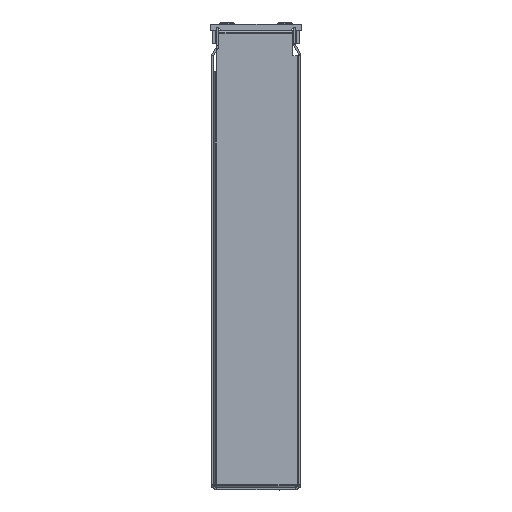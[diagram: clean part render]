
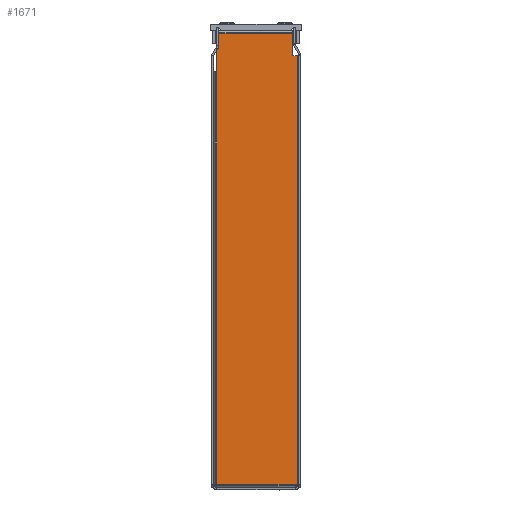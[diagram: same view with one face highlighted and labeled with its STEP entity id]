
A CAD part, left-side view. The second image highlights one B-rep face of the part: STEP entity #1671.
In plain terms, the highlighted free-form (B-spline) face has degree [1, 1] with [2, 2] control points.
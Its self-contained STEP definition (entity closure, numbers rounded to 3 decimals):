
#1671=ADVANCED_FACE('F152',(#4693),#4694,.F.);
#4693=FACE_OUTER_BOUND('',#10847,.T.);
#4694=B_SPLINE_SURFACE_WITH_KNOTS('',1,1,((#10848,#10849),(#10850,#10851)),.UNSPECIFIED.,.F.,.F.,.F.,(2,2),(2,2),(0.001,0.999),(0.001,5.607),.UNSPECIFIED.);
#10847=EDGE_LOOP('',(#29466,#29467,#29468,#29469,#29470,#29471,#29472,#29473,#29474,#29475));
#10848=CARTESIAN_POINT('',(-224.25,37.652,-2.792));
#10849=CARTESIAN_POINT('',(-224.25,37.696,-219.794));
#10850=CARTESIAN_POINT('',(-224.25,-1.,-2.8));
#10851=CARTESIAN_POINT('',(-224.25,-0.956,-219.801));
#29466=ORIENTED_EDGE('',*,*,#34477,.F.);
#29467=ORIENTED_EDGE('',*,*,#34473,.F.);
#29468=ORIENTED_EDGE('',*,*,#34445,.F.);
#29469=ORIENTED_EDGE('',*,*,#34416,.F.);
#29470=ORIENTED_EDGE('',*,*,#34485,.F.);
#29471=ORIENTED_EDGE('',*,*,#34370,.F.);
#29472=ORIENTED_EDGE('',*,*,#34366,.F.);
#29473=ORIENTED_EDGE('',*,*,#34361,.F.);
#29474=ORIENTED_EDGE('',*,*,#34486,.F.);
#29475=ORIENTED_EDGE('',*,*,#34481,.F.);
#34361=EDGE_CURVE('E369',#37141,#37163,#37164,.T.);
#34366=EDGE_CURVE('E304',#37163,#37169,#37170,.T.);
#34370=EDGE_CURVE('E297',#37169,#37175,#37176,.T.);
#34416=EDGE_CURVE('E361',#37239,#37240,#37241,.T.);
#34445=EDGE_CURVE('E366',#37240,#37280,#37282,.T.);
#34473=EDGE_CURVE('E364',#37280,#37318,#37320,.T.);
#34477=EDGE_CURVE('E326',#37318,#37324,#37325,.T.);
#34481=EDGE_CURVE('E319',#37324,#37330,#37331,.T.);
#34485=EDGE_CURVE('E368',#37175,#37239,#37336,.T.);
#34486=EDGE_CURVE('E316',#37330,#37141,#37337,.T.);
#37141=VERTEX_POINT('V195',#41348);
#37163=VERTEX_POINT('V188',#41405);
#37164=B_SPLINE_CURVE_WITH_KNOTS('',1,(#41406,#41407),.UNSPECIFIED.,.F.,.F.,(2,2),(0.0,1.0),.UNSPECIFIED.);
#37169=VERTEX_POINT('V185',#41422);
#37170=B_SPLINE_CURVE_WITH_KNOTS('',1,(#41423,#41424),.UNSPECIFIED.,.F.,.F.,(2,2),(0.0,1.0),.UNSPECIFIED.);
#37175=VERTEX_POINT('V181',#41431);
#37176=B_SPLINE_CURVE_WITH_KNOTS('',1,(#41432,#41433),.UNSPECIFIED.,.F.,.F.,(2,2),(0.0,1.0),.UNSPECIFIED.);
#37239=VERTEX_POINT('V220',#41522);
#37240=VERTEX_POINT('V218',#41523);
#37241=B_SPLINE_CURVE_WITH_KNOTS('',1,(#41524,#41525),.UNSPECIFIED.,.F.,.F.,(2,2),(0.0,0.026),.UNSPECIFIED.);
#37280=VERTEX_POINT('V217',#41607);
#37282=B_SPLINE_CURVE_WITH_KNOTS('',1,(#41618,#41619),.UNSPECIFIED.,.F.,.F.,(2,2),(0.026,1.0),.UNSPECIFIED.);
#37318=VERTEX_POINT('V204',#41690);
#37320=B_SPLINE_CURVE_WITH_KNOTS('',1,(#41701,#41702),.UNSPECIFIED.,.F.,.F.,(2,2),(0.0,0.947),.UNSPECIFIED.);
#37324=VERTEX_POINT('V201',#41707);
#37325=B_SPLINE_CURVE_WITH_KNOTS('',1,(#41708,#41709),.UNSPECIFIED.,.F.,.F.,(2,2),(0.947,1.0),.UNSPECIFIED.);
#37330=VERTEX_POINT('V199',#41716);
#37331=B_SPLINE_CURVE_WITH_KNOTS('',1,(#41717,#41718),.UNSPECIFIED.,.F.,.F.,(2,2),(0.0,1.0),.UNSPECIFIED.);
#37336=B_SPLINE_CURVE_WITH_KNOTS('',1,(#41725,#41726),.UNSPECIFIED.,.F.,.F.,(2,2),(0.0,1.0),.UNSPECIFIED.);
#37337=B_SPLINE_CURVE_WITH_KNOTS('',1,(#41727,#41728),.UNSPECIFIED.,.F.,.F.,(2,2),(0.0,1.0),.UNSPECIFIED.);
#41348=CARTESIAN_POINT('',(-224.25,36.651,-2.793));
#41405=CARTESIAN_POINT('',(-224.25,1.101,-2.8));
#41406=CARTESIAN_POINT('',(-224.25,36.651,-2.793));
#41407=CARTESIAN_POINT('',(-224.25,1.101,-2.8));
#41422=CARTESIAN_POINT('',(-224.25,1.103,-13.5));
#41423=CARTESIAN_POINT('',(-224.25,1.101,-2.8));
#41424=CARTESIAN_POINT('',(-224.25,1.103,-13.5));
#41431=CARTESIAN_POINT('',(-224.25,-0.997,-13.501));
#41432=CARTESIAN_POINT('',(-224.25,1.103,-13.5));
#41433=CARTESIAN_POINT('',(-224.25,-0.997,-13.501));
#41522=CARTESIAN_POINT('',(-224.25,-0.955,-219.8));
#41523=CARTESIAN_POINT('',(-224.25,0.045,-219.8));
#41524=CARTESIAN_POINT('',(-224.25,-0.955,-219.8));
#41525=CARTESIAN_POINT('',(-224.25,0.045,-219.8));
#41607=CARTESIAN_POINT('',(-224.25,37.695,-219.793));
#41618=CARTESIAN_POINT('',(-224.25,0.045,-219.8));
#41619=CARTESIAN_POINT('',(-224.25,37.695,-219.793));
#41690=CARTESIAN_POINT('',(-224.25,37.654,-21.293));
#41701=CARTESIAN_POINT('',(-224.25,37.695,-219.793));
#41702=CARTESIAN_POINT('',(-224.25,37.654,-21.293));
#41707=CARTESIAN_POINT('',(-224.25,37.652,-10.293));
#41708=CARTESIAN_POINT('',(-224.25,37.654,-21.293));
#41709=CARTESIAN_POINT('',(-224.25,37.652,-10.293));
#41716=CARTESIAN_POINT('',(-224.25,36.652,-10.293));
#41717=CARTESIAN_POINT('',(-224.25,37.652,-10.293));
#41718=CARTESIAN_POINT('',(-224.25,36.652,-10.293));
#41725=CARTESIAN_POINT('',(-224.25,-0.997,-13.501));
#41726=CARTESIAN_POINT('',(-224.25,-0.955,-219.8));
#41727=CARTESIAN_POINT('',(-224.25,36.652,-10.293));
#41728=CARTESIAN_POINT('',(-224.25,36.651,-2.793));
